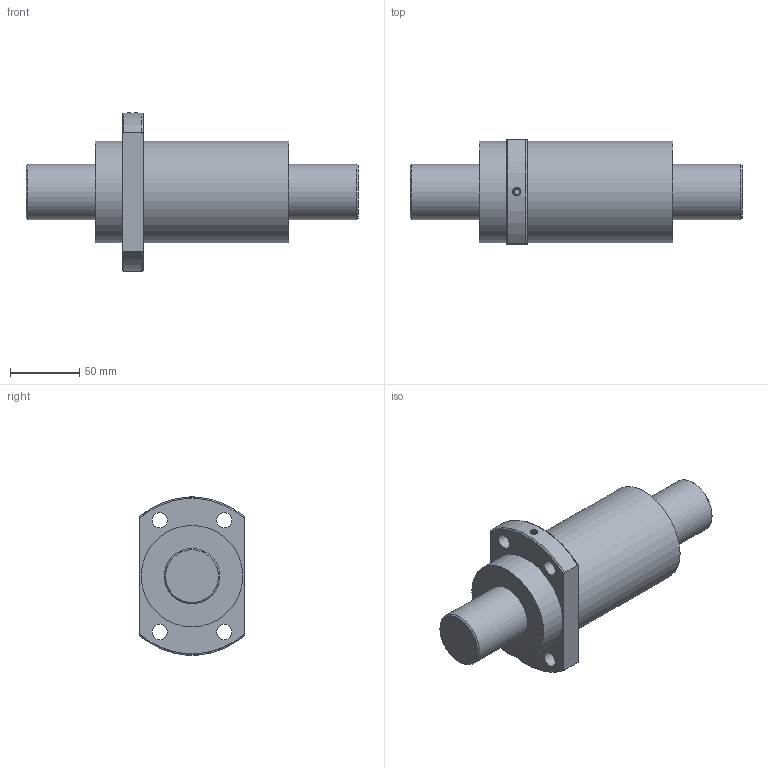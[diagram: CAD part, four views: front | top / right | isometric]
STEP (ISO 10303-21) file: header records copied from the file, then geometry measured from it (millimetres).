
FILE_DESCRIPTION (( 'STEP AP203' ), '1' );
FILE_NAME ('SFY04040-5.6.STEP', '2023-08-16T05:29:10', ( '' ), ( '' ), 'SwSTEP 2.0', 'SolidWorks 2022', '' );
FILE_SCHEMA (( 'CONFIG_CONTROL_DESIGN' ));
Length unit declared in the file: millimetre
Products named in the file (1): SFY04040-5.6
Bounding box: 239 x 75 x 113.82 mm (x, y, z)
Volume: 756508.8 mm3; surface area: 63373.9 mm2
Topology: 1 solids, 1 shells, 33 faces, 74 edges, 48 vertices
Faces by surface type: cylinder 14, plane 10, torus 4, cone 3, bspline 2
Full cylindrical faces by diameter (mm): 4 x1, 4.917 x1, 11 x4, 40 x2, 73 x2
Entity records: 2747 total; most frequent: CARTESIAN_POINT 2003, DIRECTION 136, ORIENTED_EDGE 116, AXIS2_PLACEMENT_3D 64, EDGE_LOOP 59, EDGE_CURVE 58, VERTEX_POINT 45, FACE_OUTER_BOUND 43
